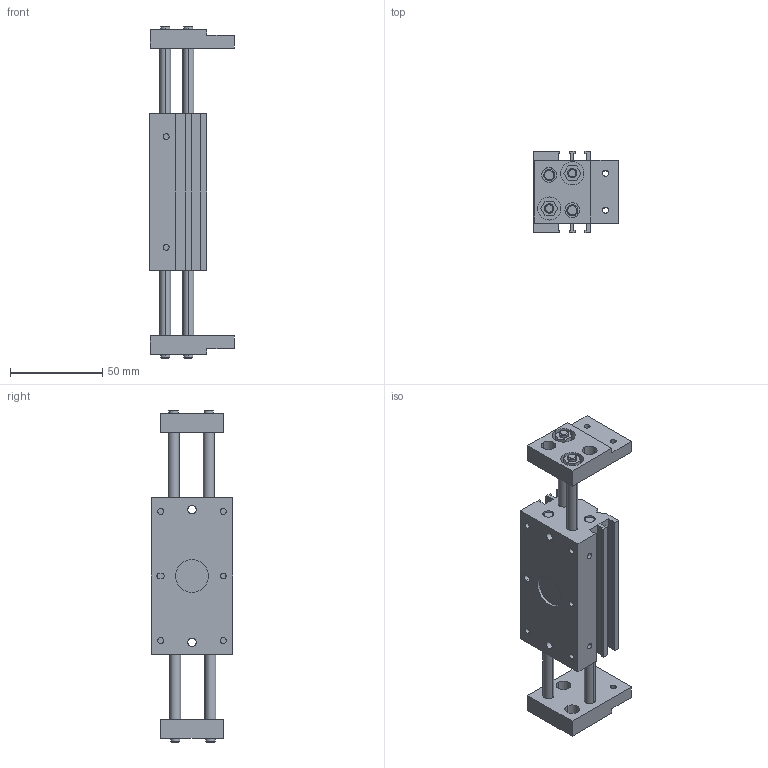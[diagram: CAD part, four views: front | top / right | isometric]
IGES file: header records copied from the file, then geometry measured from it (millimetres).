
Global section: file name: No Iges File Name specified; native system: AutoDesk Inventor R11.0; preprocessor: AutoDesk Inventor Iges Exporter R11.0; author: No Author specified; organization: No Organization specified; date: 20070224.105230; units: millimetre
Bounding box: 46 x 44 x 180 mm (x, y, z)
Volume: 129685.4 mm3; surface area: 48444.5 mm2
Topology: 3 solids, 3 shells, 203 faces, 494 edges, 324 vertices
Faces by surface type: plane 101, bspline 56, cylinder 16, cone 16, revolution 14
